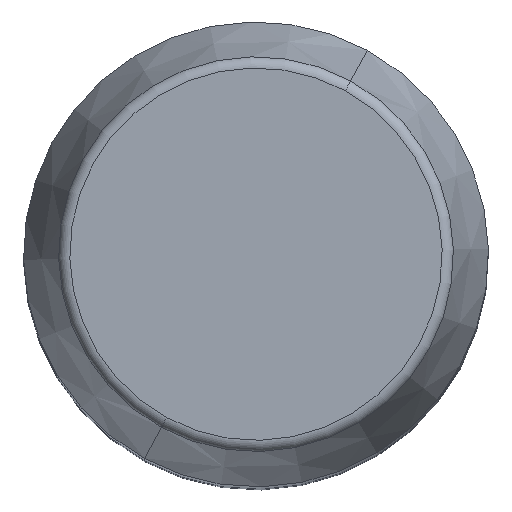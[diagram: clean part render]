
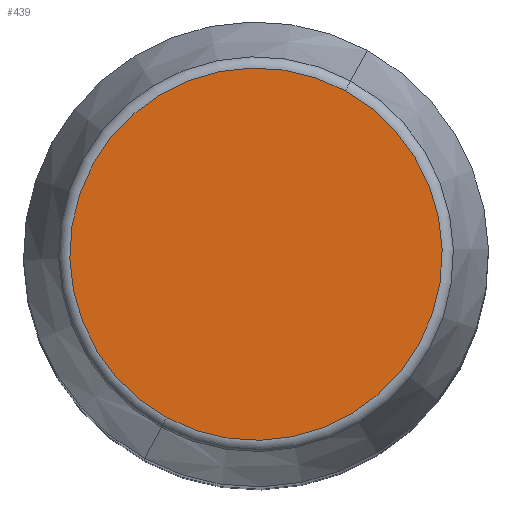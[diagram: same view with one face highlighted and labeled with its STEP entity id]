
A CAD part, top view. The second image highlights one B-rep face of the part: STEP entity #439.
In plain terms, the highlighted planar face has unit normal (0, 0, 1).
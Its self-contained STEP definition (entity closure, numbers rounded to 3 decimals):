
#391=CARTESIAN_POINT('Vertex',(-7.679,-14.056,180.)) ;
#394=CARTESIAN_POINT('Axis2P3D Location',(0.,0.,180.)) ;
#398=CARTESIAN_POINT('Vertex',(7.679,14.056,180.)) ;
#418=CARTESIAN_POINT('Axis2P3D Location',(0.,0.,180.)) ;
#430=CARTESIAN_POINT('Axis2P3D Location',(0.,16.017,180.)) ;
#395=DIRECTION('Axis2P3D Direction',(0.,0.,-1.)) ;
#419=DIRECTION('Axis2P3D Direction',(0.,0.,-1.)) ;
#431=DIRECTION('Axis2P3D Direction',(0.,0.,-1.)) ;
#432=DIRECTION('Axis2P3D XDirection',(1.,0.,0.)) ;
#396=AXIS2_PLACEMENT_3D('Circle Axis2P3D',#394,#395,$) ;
#420=AXIS2_PLACEMENT_3D('Circle Axis2P3D',#418,#419,$) ;
#433=AXIS2_PLACEMENT_3D('Plane Axis2P3D',#430,#431,#432) ;
#436=ORIENTED_EDGE('',*,*,#422,.F.) ;
#437=ORIENTED_EDGE('',*,*,#400,.F.) ;
#439=ADVANCED_FACE('PartBody',(#438),#434,.F.) ;
#397=CIRCLE('generated circle',#396,16.017) ;
#421=CIRCLE('generated circle',#420,16.017) ;
#400=EDGE_CURVE('',#392,#399,#397,.T.) ;
#422=EDGE_CURVE('',#399,#392,#421,.T.) ;
#435=EDGE_LOOP('',(#436,#437)) ;
#438=FACE_OUTER_BOUND('',#435,.T.) ;
#434=PLANE('Plane',#433) ;
#392=VERTEX_POINT('',#391) ;
#399=VERTEX_POINT('',#398) ;
